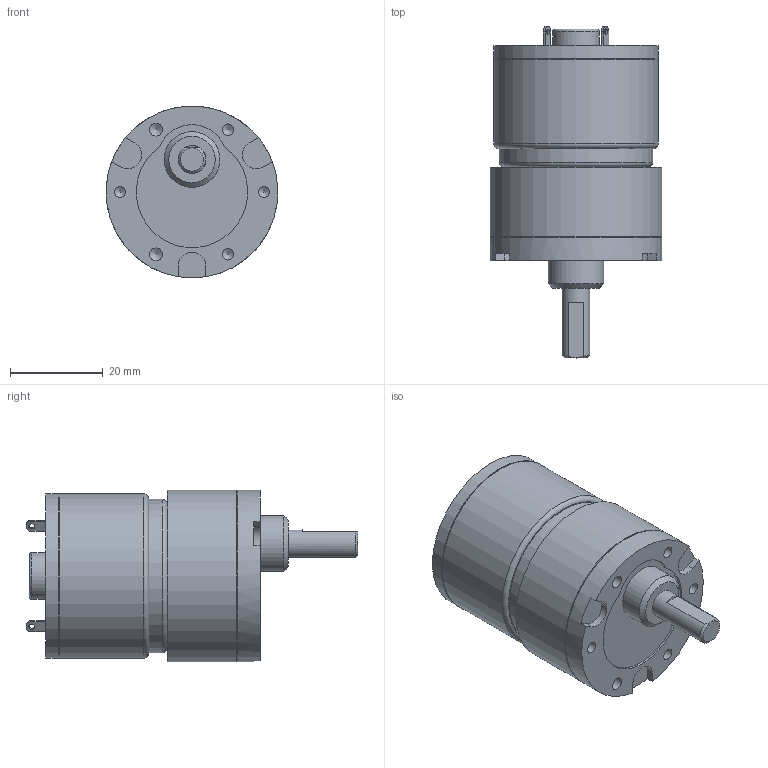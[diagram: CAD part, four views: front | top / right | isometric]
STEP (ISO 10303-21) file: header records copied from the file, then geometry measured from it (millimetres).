
FILE_DESCRIPTION((''),'2;1');
FILE_NAME('C:\Documents and Settings\SSEGAWA\デスクトップ\TP-3526A-KS-2.STP','2013-07-05T15:59:44',('SSEGAWA'),(''),'Autodesk Inventor 2010','Autodesk Inventor 2010','');
FILE_SCHEMA(('CONFIG_CONTROL_DESIGN'));
Length unit declared in the file: millimetre
Products named in the file (3): tp_3526abcj_ks_2; ks_2; tp_3526a,b,c,j
Assembly tree (2 placements, depth 2):
  tp_3526abcj_ks_2
    ks_2
    tp_3526a,b,c,j
Bounding box: 37 x 71.5 x 37 mm (x, y, z)
Volume: 47895.3 mm3; surface area: 10613.1 mm2
Topology: 3 solids, 3 shells, 82 faces, 188 edges, 125 vertices
Faces by surface type: plane 36, bspline 21, cylinder 20, torus 3, cone 2
Full cylindrical faces by diameter (mm): 2 x1, 4 x1, 6 x1, 10 x2, 12 x1, 33 x1, 35 x1, 35.4 x2, 36.6 x1, 37 x2
Entity records: 2313 total; most frequent: CARTESIAN_POINT 700, DIRECTION 329, ORIENTED_EDGE 250, AXIS2_PLACEMENT_3D 140, EDGE_LOOP 137, EDGE_CURVE 125, VERTEX_POINT 100, FACE_OUTER_BOUND 82
